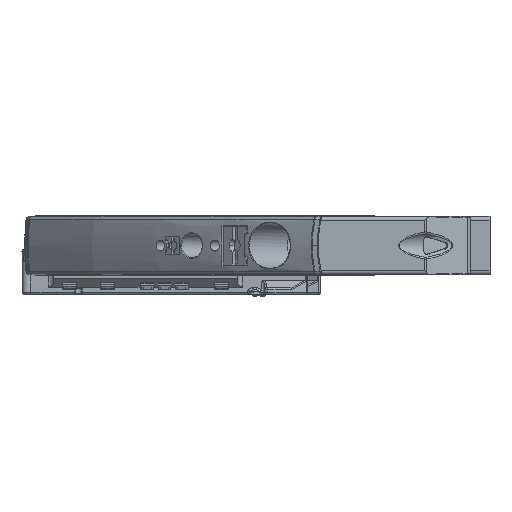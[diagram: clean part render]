
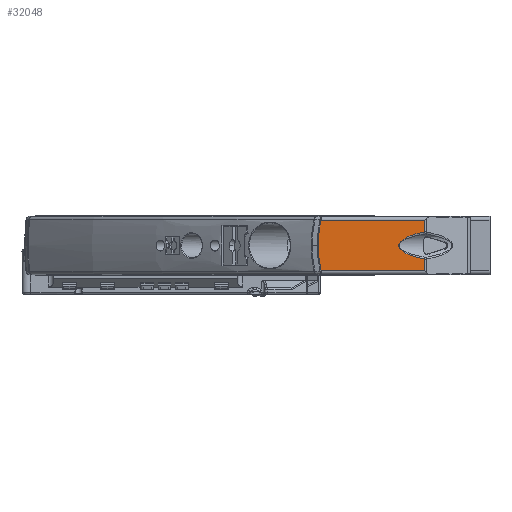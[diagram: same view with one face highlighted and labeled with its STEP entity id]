
A CAD part, left-side view. The second image highlights one B-rep face of the part: STEP entity #32048.
In plain terms, the highlighted planar face has unit normal (-1, 0, 0).
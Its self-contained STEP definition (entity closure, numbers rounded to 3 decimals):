
#8846=CARTESIAN_POINT('',(-40.,7.214,-2.88));
#8847=CARTESIAN_POINT('',(-40.,7.512,
-2.824));
#8848=CARTESIAN_POINT('',(-40.,8.072,
-2.707));
#8849=CARTESIAN_POINT('',(-40.,8.801,
-2.527));
#8850=CARTESIAN_POINT('',(-40.,9.438,
-2.346));
#8851=CARTESIAN_POINT('',(-40.,9.991,
-2.164));
#8852=CARTESIAN_POINT('',(-40.,10.469,
-1.984));
#8853=CARTESIAN_POINT('',(-40.,10.881,
-1.808));
#8854=CARTESIAN_POINT('',(-40.,11.234,-1.635));
#8855=CARTESIAN_POINT('',(-40.,11.533,-1.468));
#8856=CARTESIAN_POINT('',(-40.,11.784,-1.307));
#8857=CARTESIAN_POINT('',(-40.,11.994,-1.153));
#8858=CARTESIAN_POINT('',(-40.,12.165,-1.007));
#8859=CARTESIAN_POINT('',(-40.,12.304,-0.869));
#8860=CARTESIAN_POINT('',(-40.,12.413,-0.741));
#8861=CARTESIAN_POINT('',(-40.,12.499,-0.62));
#8862=CARTESIAN_POINT('',(-40.,12.566,-0.507));
#8863=CARTESIAN_POINT('',(-40.,12.617,-0.399));
#8864=CARTESIAN_POINT('',(-40.,12.654,-0.296));
#8865=CARTESIAN_POINT('',(-40.,12.68,-0.195));
#8866=CARTESIAN_POINT('',(-40.,12.695,-0.097));
#8867=CARTESIAN_POINT('',(-40.,12.699,0.));
#8868=CARTESIAN_POINT('',(-40.,12.695,0.097));
#8869=CARTESIAN_POINT('',(-40.,12.68,0.195));
#8870=CARTESIAN_POINT('',(-40.,12.655,0.295));
#8871=CARTESIAN_POINT('',(-40.,12.617,0.398));
#8872=CARTESIAN_POINT('',(-40.,12.567,0.506));
#8873=CARTESIAN_POINT('',(-40.,12.5,0.619));
#8874=CARTESIAN_POINT('',(-40.,12.414,0.74));
#8875=CARTESIAN_POINT('',(-40.,12.304,0.868));
#8876=CARTESIAN_POINT('',(-40.,12.166,1.006));
#8877=CARTESIAN_POINT('',(-40.,11.995,1.152));
#8878=CARTESIAN_POINT('',(-40.,11.786,1.306));
#8879=CARTESIAN_POINT('',(-40.,11.534,1.467));
#8880=CARTESIAN_POINT('',(-40.,11.235,1.635));
#8881=CARTESIAN_POINT('',(-40.,10.883,1.807));
#8882=CARTESIAN_POINT('',(-40.,10.471,1.984));
#8883=CARTESIAN_POINT('',(-40.,9.992,2.164));
#8884=CARTESIAN_POINT('',(-40.,9.439,2.345));
#8885=CARTESIAN_POINT('',(-40.,8.802,2.527));
#8886=CARTESIAN_POINT('',(-40.,8.072,2.707));
#8887=CARTESIAN_POINT('',(-40.,7.512,2.824));
#8888=CARTESIAN_POINT('',(-40.,7.214,2.88));
#8890=CARTESIAN_POINT('',(-40.,7.214,2.88));
#8908=CARTESIAN_POINT('',(-40.,7.214,-2.88));
#8920=DIRECTION('',(0.,0.,1.));
#8921=VECTOR('',#8920,2.47);
#8922=CARTESIAN_POINT('',(-40.,7.214,-5.35));
#8923=LINE('',#8922,#8921);
#8924=DIRECTION('',(0.,-1.,0.));
#8925=VECTOR('',#8924,21.831);
#8926=CARTESIAN_POINT('',(-40.,29.046,
-5.35));
#8927=LINE('',#8926,#8925);
#8954=CARTESIAN_POINT('',(-40.,29.046,
-5.35));
#8955=CARTESIAN_POINT('',(-40.,29.125,
-4.998));
#8956=CARTESIAN_POINT('',(-40.,29.268,
-4.29));
#8957=CARTESIAN_POINT('',(-40.,29.435,
-3.219));
#8958=CARTESIAN_POINT('',(-40.,29.554,
-2.145));
#8959=CARTESIAN_POINT('',(-40.,29.626,
-1.072));
#8960=CARTESIAN_POINT('',(-40.,29.642,
-0.357));
#8961=CARTESIAN_POINT('',(-40.,29.642,
0.));
#8963=CARTESIAN_POINT('',(-40.,29.642,
0.));
#8964=CARTESIAN_POINT('',(-40.,29.642,
0.36));
#8965=CARTESIAN_POINT('',(-40.,29.626,1.079));
#8966=CARTESIAN_POINT('',(-40.,29.553,2.156));
#8967=CARTESIAN_POINT('',(-40.,29.434,3.228));
#8968=CARTESIAN_POINT('',(-40.,29.267,4.294));
#8969=CARTESIAN_POINT('',(-40.,29.125,4.999));
#8970=CARTESIAN_POINT('',(-40.,29.046,5.35));
#8993=DIRECTION('',(0.,1.,0.));
#8994=VECTOR('',#8993,21.831);
#8995=CARTESIAN_POINT('',(-40.,7.214,5.35));
#8996=LINE('',#8995,#8994);
#8997=DIRECTION('',(0.,0.,1.));
#8998=VECTOR('',#8997,2.47);
#8999=CARTESIAN_POINT('',(-40.,7.214,2.88));
#9000=LINE('',#8999,#8998);
#18432=VERTEX_POINT('',#8890);
#18434=VERTEX_POINT('',#8908);
#18472=CARTESIAN_POINT('',(-40.,7.214,5.35));
#18473=VERTEX_POINT('',#18472);
#18474=CARTESIAN_POINT('',(-40.,29.046,
5.35));
#18475=VERTEX_POINT('',#18474);
#18476=CARTESIAN_POINT('',(-40.,7.214,-5.35));
#18477=VERTEX_POINT('',#18476);
#18478=CARTESIAN_POINT('',(-40.,29.046,
-5.35));
#18479=VERTEX_POINT('',#18478);
#18480=VERTEX_POINT('',#8961);
#32030=CARTESIAN_POINT('',(-40.,91.5,-6.15));
#32031=DIRECTION('',(-1.,0.,0.));
#32032=DIRECTION('',(0.,-1.,0.));
#32033=AXIS2_PLACEMENT_3D('',#32030,#32031,#32032);
#32034=PLANE('',#32033);
#32036=ORIENTED_EDGE('',*,*,#32035,.F.);
#32038=ORIENTED_EDGE('',*,*,#32037,.F.);
#32039=ORIENTED_EDGE('',*,*,#31942,.F.);
#32040=ORIENTED_EDGE('',*,*,#32010,.F.);
#32041=ORIENTED_EDGE('',*,*,#32020,.F.);
#32043=ORIENTED_EDGE('',*,*,#32042,.T.);
#32045=ORIENTED_EDGE('',*,*,#32044,.T.);
#32046=EDGE_LOOP('',(#32036,#32038,#32039,#32040,#32041,#32043,#32045));
#32047=FACE_OUTER_BOUND('',#32046,.F.);
#8889=B_SPLINE_CURVE_WITH_KNOTS('',3,(#8846,#8847,#8848,#8849,#8850,#8851,#8852,
#8853,#8854,#8855,#8856,#8857,#8858,#8859,#8860,#8861,#8862,#8863,#8864,#8865,
#8866,#8867,#8868,#8869,#8870,#8871,#8872,#8873,#8874,#8875,#8876,#8877,#8878,
#8879,#8880,#8881,#8882,#8883,#8884,#8885,#8886,#8887,#8888),.UNSPECIFIED.,.F.,
.F.,(4,1,1,1,1,1,1,1,1,1,1,1,1,1,1,1,1,1,1,1,1,1,1,1,1,1,1,1,1,1,1,1,1,1,1,1,1,
1,1,1,4),(0.,0.025,0.05,0.075,0.1,0.125,0.15,0.175,0.2,0.225,
0.25,0.275,0.3,0.325,0.35,0.375,0.4,0.425,0.45,0.475,0.5,
0.525,0.55,0.575,0.6,0.625,0.65,0.675,0.7,0.725,0.75,
0.775,0.8,0.825,0.85,0.875,0.9,0.925,0.95,0.975,1.),
.UNSPECIFIED.);
#8962=B_SPLINE_CURVE_WITH_KNOTS('',3,(#8954,#8955,#8956,#8957,#8958,#8959,#8960,
#8961),.UNSPECIFIED.,.F.,.F.,(4,1,1,1,1,4),(0.,0.2,0.4,0.6,0.8,1.),
.UNSPECIFIED.);
#8971=B_SPLINE_CURVE_WITH_KNOTS('',3,(#8963,#8964,#8965,#8966,#8967,#8968,#8969,
#8970),.UNSPECIFIED.,.F.,.F.,(4,1,1,1,1,4),(0.,0.2,0.4,0.6,0.8,1.),
.UNSPECIFIED.);
#31942=EDGE_CURVE('',#18434,#18432,#8889,.T.);
#32010=EDGE_CURVE('',#18477,#18434,#8923,.T.);
#32020=EDGE_CURVE('',#18479,#18477,#8927,.T.);
#32035=EDGE_CURVE('',#18473,#18475,#8996,.T.);
#32037=EDGE_CURVE('',#18432,#18473,#9000,.T.);
#32042=EDGE_CURVE('',#18479,#18480,#8962,.T.);
#32044=EDGE_CURVE('',#18480,#18475,#8971,.T.);
#32048=ADVANCED_FACE('',(#32047),#32034,.T.);
